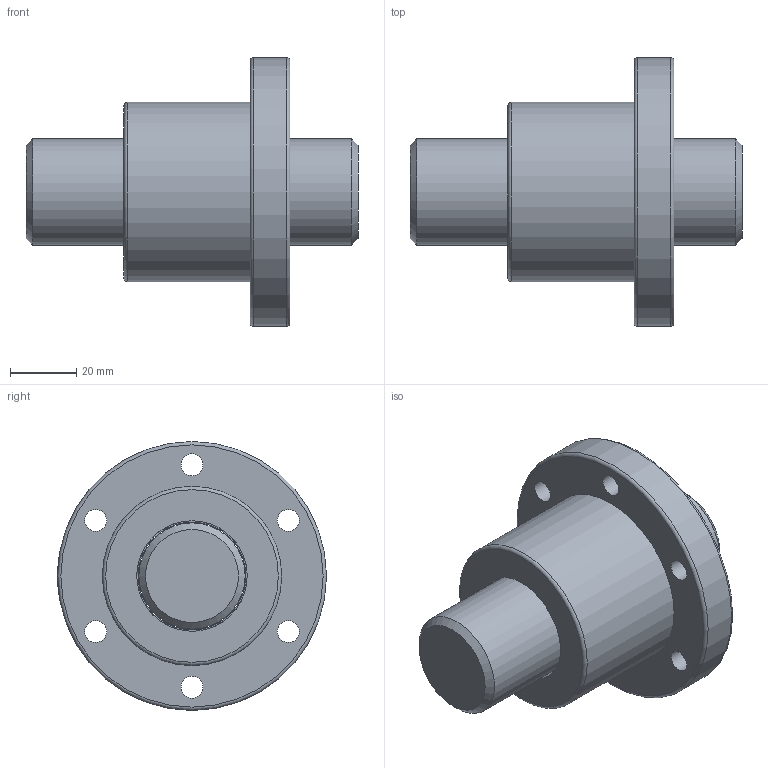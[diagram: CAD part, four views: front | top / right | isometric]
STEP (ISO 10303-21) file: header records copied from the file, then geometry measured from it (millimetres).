
FILE_DESCRIPTION (( 'STEP AP203' ), '1' );
FILE_NAME ('SFV03204-4.8.STEP', '2023-08-16T05:31:20', ( '' ), ( '' ), 'SwSTEP 2.0', 'SolidWorks 2022', '' );
FILE_SCHEMA (( 'CONFIG_CONTROL_DESIGN' ));
Length unit declared in the file: millimetre
Products named in the file (1): SFV03204-4.8
Bounding box: 100 x 81 x 81 mm (x, y, z)
Volume: 180251.3 mm3; surface area: 36484 mm2
Topology: 2 solids, 2 shells, 42 faces, 92 edges, 60 vertices
Faces by surface type: cylinder 21, plane 13, cone 3, torus 3, bspline 2
Full cylindrical faces by diameter (mm): 4 x1, 4.917 x1, 6.6 x6, 11 x6, 32 x1, 32.5 x1, 33.28 x1, 54 x1, 81 x1
Entity records: 2811 total; most frequent: CARTESIAN_POINT 1930, DIRECTION 172, ORIENTED_EDGE 116, EDGE_LOOP 89, AXIS2_PLACEMENT_3D 85, FACE_OUTER_BOUND 64, EDGE_CURVE 58, VERTEX_POINT 51
